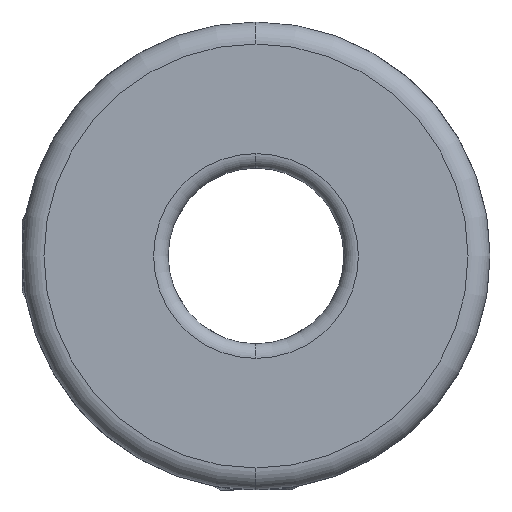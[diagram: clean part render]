
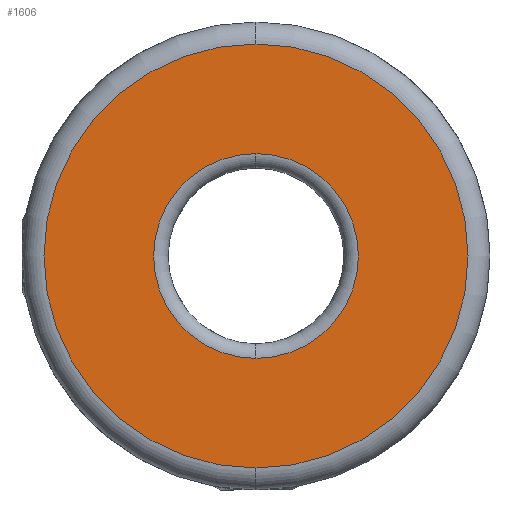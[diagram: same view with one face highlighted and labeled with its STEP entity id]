
A CAD part, left-side view. The second image highlights one B-rep face of the part: STEP entity #1606.
In plain terms, the highlighted planar face has unit normal (-1, 0, 0).
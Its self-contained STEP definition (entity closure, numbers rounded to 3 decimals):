
#259 = CIRCLE ( 'NONE', #3525, 3.5 ) ;
#475 = CARTESIAN_POINT ( 'NONE',  ( -11.5, 0., 0. ) ) ;
#829 = DIRECTION ( 'NONE',  ( 0., 0., -1. ) ) ;
#1087 = VERTEX_POINT ( 'NONE', #3151 ) ;
#1119 = EDGE_CURVE ( 'NONE', #2591, #1087, #4195, .T. ) ;
#1391 = AXIS2_PLACEMENT_3D ( 'NONE', #2097, #4296, #1735 ) ;
#1439 = EDGE_LOOP ( 'NONE', ( #1761, #3464 ) ) ;
#1467 = VERTEX_POINT ( 'NONE', #2568 ) ;
#1533 = CARTESIAN_POINT ( 'NONE',  ( -11.5, 0., -3.5 ) ) ;
#1606 = ADVANCED_FACE ( 'NONE', ( #2841, #3573 ), #2881, .F. ) ;
#1634 = CARTESIAN_POINT ( 'NONE',  ( -11.5, 0., 7.25 ) ) ;
#1735 = DIRECTION ( 'NONE',  ( 0., 0., -1. ) ) ;
#1744 = DIRECTION ( 'NONE',  ( 1., 0., 0. ) ) ;
#1761 = ORIENTED_EDGE ( 'NONE', *, *, #4599, .T. ) ;
#1762 = CIRCLE ( 'NONE', #3893, 3.5 ) ;
#1789 = AXIS2_PLACEMENT_3D ( 'NONE', #4307, #1744, #3959 ) ;
#1791 = DIRECTION ( 'NONE',  ( 1., 0., 0. ) ) ;
#1986 = EDGE_LOOP ( 'NONE', ( #3510, #4341 ) ) ;
#2023 = CARTESIAN_POINT ( 'NONE',  ( -11.5, 0., 0. ) ) ;
#2095 = CIRCLE ( 'NONE', #2512, 7.25 ) ;
#2097 = CARTESIAN_POINT ( 'NONE',  ( -11.5, 0., 0. ) ) ;
#2402 = DIRECTION ( 'NONE',  ( 0., 0., -1. ) ) ;
#2488 = VERTEX_POINT ( 'NONE', #1533 ) ;
#2512 = AXIS2_PLACEMENT_3D ( 'NONE', #2023, #4570, #2402 ) ;
#2568 = CARTESIAN_POINT ( 'NONE',  ( -11.5, 0., 3.5 ) ) ;
#2591 = VERTEX_POINT ( 'NONE', #1634 ) ;
#2841 = FACE_BOUND ( 'NONE', #1439, .T. ) ;
#2881 = PLANE ( 'NONE',  #1789 ) ;
#3029 = DIRECTION ( 'NONE',  ( 1., 0., 0. ) ) ;
#3151 = CARTESIAN_POINT ( 'NONE',  ( -11.5, 0., -7.25 ) ) ;
#3197 = EDGE_CURVE ( 'NONE', #1467, #2488, #1762, .T. ) ;
#3464 = ORIENTED_EDGE ( 'NONE', *, *, #3197, .T. ) ;
#3510 = ORIENTED_EDGE ( 'NONE', *, *, #4354, .T. ) ;
#3525 = AXIS2_PLACEMENT_3D ( 'NONE', #3999, #1791, #4344 ) ;
#3573 = FACE_OUTER_BOUND ( 'NONE', #1986, .T. ) ;
#3893 = AXIS2_PLACEMENT_3D ( 'NONE', #475, #3029, #829 ) ;
#3959 = DIRECTION ( 'NONE',  ( 0., 0., -1. ) ) ;
#3999 = CARTESIAN_POINT ( 'NONE',  ( -11.5, 0., 0. ) ) ;
#4195 = CIRCLE ( 'NONE', #1391, 7.25 ) ;
#4296 = DIRECTION ( 'NONE',  ( -1., 0., 0. ) ) ;
#4307 = CARTESIAN_POINT ( 'NONE',  ( -11.5, 0., 0. ) ) ;
#4341 = ORIENTED_EDGE ( 'NONE', *, *, #1119, .T. ) ;
#4344 = DIRECTION ( 'NONE',  ( 0., 0., -1. ) ) ;
#4354 = EDGE_CURVE ( 'NONE', #1087, #2591, #2095, .T. ) ;
#4570 = DIRECTION ( 'NONE',  ( -1., 0., 0. ) ) ;
#4599 = EDGE_CURVE ( 'NONE', #2488, #1467, #259, .T. ) ;
